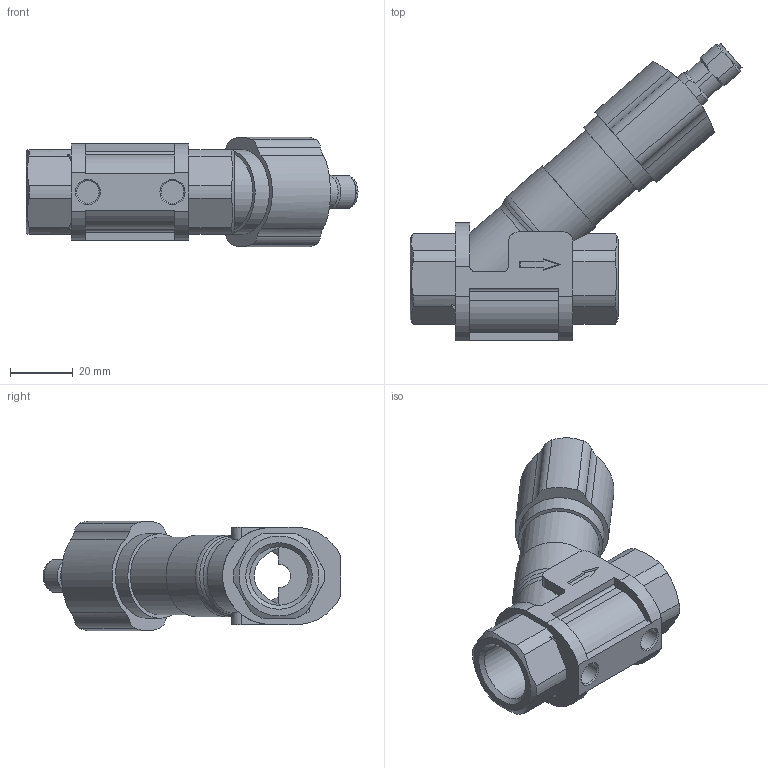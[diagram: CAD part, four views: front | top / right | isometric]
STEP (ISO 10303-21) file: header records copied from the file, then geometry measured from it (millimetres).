
FILE_DESCRIPTION(/* description */ ('STEP AP203'),/* implementation_level */ '2;1');
FILE_NAME(/* name */ 'SBY321',/* time_stamp */ '2024-03-05T13:07:16+01:00',/* author */ ('License CC BY-ND 4.0'),/* organization */ ('CADENAS'),/* preprocessor_version */ 'ST-DEVELOPER v19.3',/* originating_system */ 'PARTsolutions',/* authorisation */ ' ');
FILE_SCHEMA (('CONFIG_CONTROL_DESIGN'));
Length unit declared in the file: millimetre
Products named in the file (1): SBY321
Bounding box: 105.96 x 95.01 x 35 mm (x, y, z)
Volume: 65337.8 mm3; surface area: 23078.2 mm2
Topology: 1 solids, 1 shells, 184 faces, 488 edges, 324 vertices
Faces by surface type: plane 91, cylinder 73, cone 18, torus 2
Full cylindrical faces by diameter (mm): 7.188 x2, 8.3 x1, 10 x1, 10.5 x1, 18.631 x2, 19.17 x1, 24.8 x1, 26 x1, 27 x1
Entity records: 5687 total; most frequent: CARTESIAN_POINT 1186, DIRECTION 931, ORIENTED_EDGE 910, EDGE_CURVE 455, AXIS2_PLACEMENT_3D 348, VERTEX_POINT 313, LINE 235, VECTOR 235
